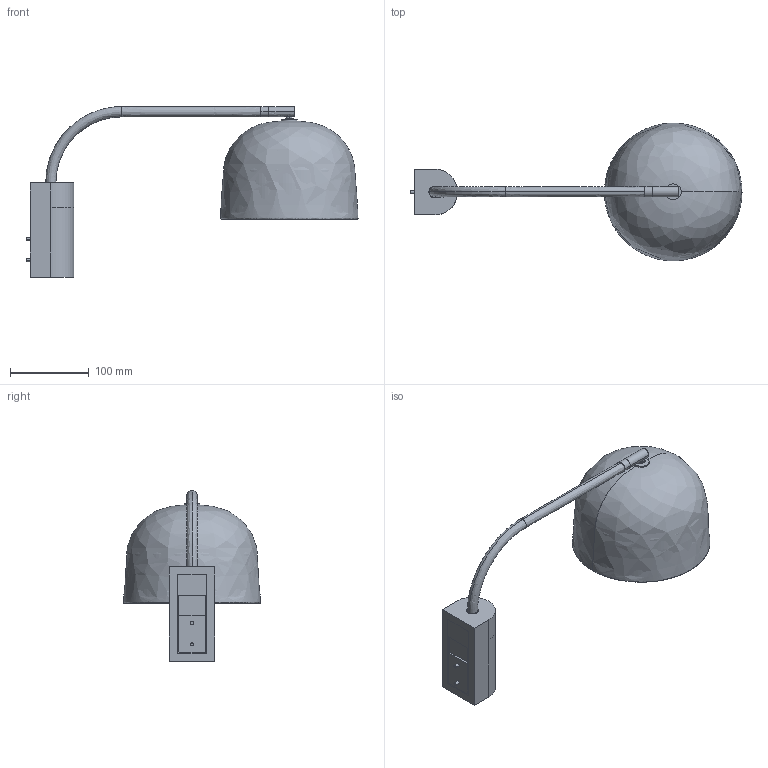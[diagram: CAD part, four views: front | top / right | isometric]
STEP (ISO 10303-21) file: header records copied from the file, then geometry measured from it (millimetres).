
FILE_DESCRIPTION(/* description */ (''),/* implementation_level */ '2;1');
FILE_NAME(/* name */ 'short wall lamp assembled_16-06-2016',/* time_stamp */ '2016-06-20T11:08:52+02:00',/* author */ (''),/* organization */ (''),/* preprocessor_version */ 'ST-DEVELOPER v15',/* originating_system */ '',/* authorisation */ '');
FILE_SCHEMA (('AUTOMOTIVE_DESIGN'));
Length unit declared in the file: millimetre
Products named in the file (1): Document
Bounding box: 421.49 x 174.64 x 216.72 mm (x, y, z)
Volume: 497310.1 mm3; surface area: 313333.2 mm2
Topology: 18 solids, 18 shells, 281 faces, 659 edges, 411 vertices
Faces by surface type: bspline 172, plane 109
Entity records: 14164 total; most frequent: CARTESIAN_POINT 10255, ORIENTED_EDGE 1302, EDGE_CURVE 651, VERTEX_POINT 411, EDGE_LOOP 316, ADVANCED_FACE 281, FACE_OUTER_BOUND 281, B_SPLINE_CURVE_WITH_KNOTS 229
